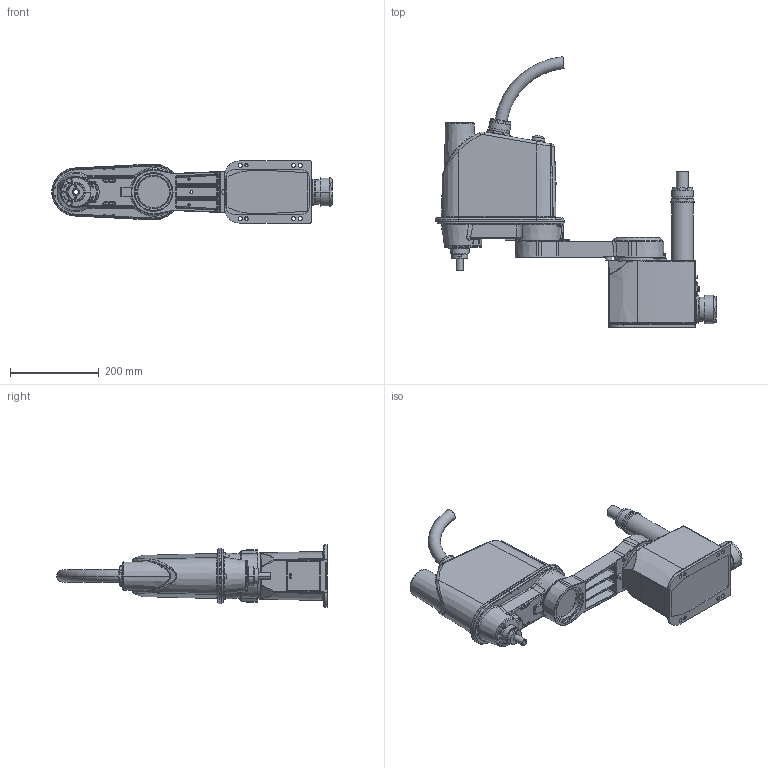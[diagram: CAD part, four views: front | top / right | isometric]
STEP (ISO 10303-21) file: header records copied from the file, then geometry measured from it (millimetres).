
FILE_DESCRIPTION((''),'2;1');
FILE_NAME('THE400_3D_ASM','2024-06-05T09:25:04',('15575'),(''),'CREO PARAMETRIC BY PTC INC, 2020454','CREO PARAMETRIC BY PTC INC, 2020454','');
FILE_SCHEMA(('AUTOMOTIVE_DESIGN { 1 0 10303 214 1 1 1 1 }'));
Products named in the file (5): THE400_BASE; THE400_1ST_ARM; THE400_2ND_ARM; THE400_BALL_SCREW; THE400_3D_ASM
Assembly tree (4 placements, depth 2):
  THE400_3D_ASM
    THE400_BASE
    THE400_1ST_ARM
    THE400_2ND_ARM
    THE400_BALL_SCREW
Bounding box: 631 x 608.9 x 140 mm (x, y, z)
Volume: 3013247.1 mm3; surface area: 964183.5 mm2
Topology: 4 solids, 24 shells, 2052 faces, 4931 edges, 2981 vertices
Faces by surface type: plane 687, cylinder 635, torus 268, bspline 206, cone 154, sphere 98, revolution 4
Full cylindrical faces by diameter (mm): 0.2 x1
Entity records: 84226 total; most frequent: CARTESIAN_POINT 24528, ORIENTED_EDGE 9780, DIRECTION 9769, EDGE_CURVE 4911, AXIS2_PLACEMENT_3D 3839, VERTEX_POINT 2979, EDGE_LOOP 2209, PRESENTATION_STYLE_ASSIGNMENT 2111
